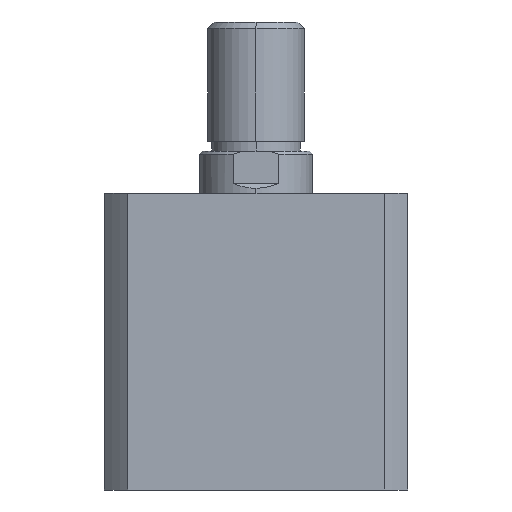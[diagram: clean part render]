
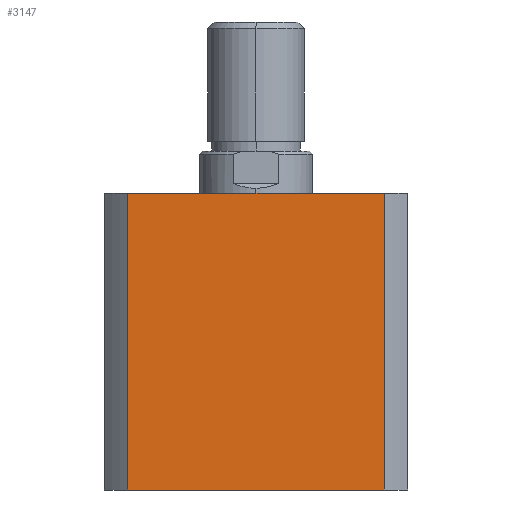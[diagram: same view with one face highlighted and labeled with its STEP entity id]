
A CAD part, left-side view. The second image highlights one B-rep face of the part: STEP entity #3147.
In plain terms, the highlighted planar face has unit normal (-1, 0, 0).
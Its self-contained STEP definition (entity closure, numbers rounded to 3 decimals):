
#450 = CARTESIAN_POINT ( 'NONE',  ( -47., 0., 92. ) ) ;
#452 = PLANE ( 'NONE',  #4933 ) ;
#455 = DIRECTION ( 'NONE',  ( 1., 0., 0. ) ) ;
#456 = DIRECTION ( 'NONE',  ( 0., 0., -1. ) ) ;
#496 = CARTESIAN_POINT ( 'NONE',  ( -47., -39.664, 92. ) ) ;
#497 = CARTESIAN_POINT ( 'NONE',  ( -47., 39.664, 92. ) ) ;
#519 = CARTESIAN_POINT ( 'NONE',  ( -47., 0., 0. ) ) ;
#520 = DIRECTION ( 'NONE',  ( 0., -1., 0. ) ) ;
#521 = DIRECTION ( 'NONE',  ( 0., 0., -1. ) ) ;
#523 = DIRECTION ( 'NONE',  ( 0., 0., -1. ) ) ;
#955 = DIRECTION ( 'NONE',  ( 0., -1., 0. ) ) ;
#956 = CARTESIAN_POINT ( 'NONE',  ( -47., 0., 92. ) ) ;
#1292 = LINE ( 'NONE', #496, #1323 ) ;
#1318 = LINE ( 'NONE', #519, #1321 ) ;
#1320 = LINE ( 'NONE', #497, #1325 ) ;
#1321 = VECTOR ( 'NONE', #520, 1000. ) ;
#1323 = VECTOR ( 'NONE', #521, 1000. ) ;
#1325 = VECTOR ( 'NONE', #523, 1000. ) ;
#1426 = LINE ( 'NONE', #956, #1428 ) ;
#1428 = VECTOR ( 'NONE', #955, 1000. ) ;
#1832 = ORIENTED_EDGE ( 'NONE', *, *, #4484, .T. ) ;
#1833 = ORIENTED_EDGE ( 'NONE', *, *, #4561, .F. ) ;
#1834 = ORIENTED_EDGE ( 'NONE', *, *, #4483, .F. ) ;
#1835 = ORIENTED_EDGE ( 'NONE', *, *, #4482, .T. ) ;
#2280 = EDGE_LOOP ( 'NONE', ( #1835, #1834, #1833, #1832 ) ) ;
#3147 = ADVANCED_FACE ( 'NONE', ( #3344 ), #452, .F. ) ;
#3344 = FACE_OUTER_BOUND ( 'NONE', #2280, .T. ) ;
#3627 = CARTESIAN_POINT ( 'NONE',  ( -47., 39.664, 92. ) ) ;
#3628 = CARTESIAN_POINT ( 'NONE',  ( -47., -39.664, 92. ) ) ;
#3647 = CARTESIAN_POINT ( 'NONE',  ( -47., 39.664, 0. ) ) ;
#3648 = CARTESIAN_POINT ( 'NONE',  ( -47., -39.664, 0. ) ) ;
#4168 = VERTEX_POINT ( 'NONE', #3627 ) ;
#4169 = VERTEX_POINT ( 'NONE', #3628 ) ;
#4188 = VERTEX_POINT ( 'NONE', #3647 ) ;
#4189 = VERTEX_POINT ( 'NONE', #3648 ) ;
#4482 = EDGE_CURVE ( 'NONE', #4188, #4189, #1318, .T. ) ;
#4483 = EDGE_CURVE ( 'NONE', #4169, #4189, #1292, .T. ) ;
#4484 = EDGE_CURVE ( 'NONE', #4168, #4188, #1320, .T. ) ;
#4561 = EDGE_CURVE ( 'NONE', #4168, #4169, #1426, .T. ) ;
#4933 = AXIS2_PLACEMENT_3D ( 'NONE', #450, #455, #456 ) ;
